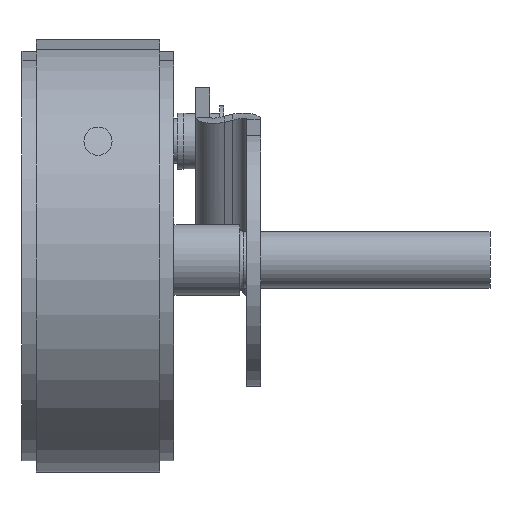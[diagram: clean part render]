
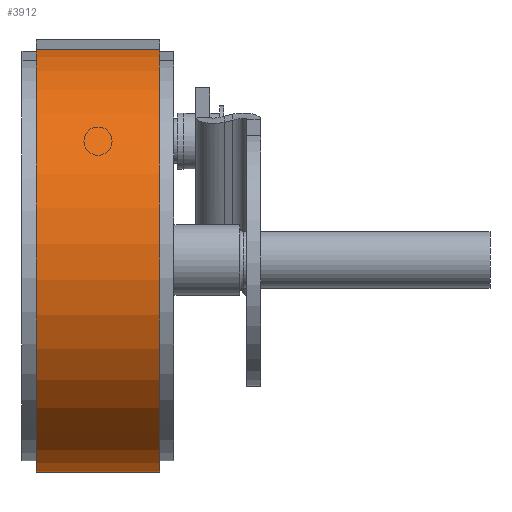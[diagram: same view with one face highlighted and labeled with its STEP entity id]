
A CAD part, left-side view. The second image highlights one B-rep face of the part: STEP entity #3912.
In plain terms, the highlighted cylindrical face has radius 75.5 mm (diameter 151 mm), a partial arc.
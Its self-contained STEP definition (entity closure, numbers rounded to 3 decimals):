
#426=FACE_OUTER_BOUND('',#679,.T.);
#679=EDGE_LOOP('',(#3369,#3370,#3371,#3372));
#1008=LINE('',#6858,#1350);
#1014=LINE('',#6870,#1356);
#1350=VECTOR('',#5319,10.);
#1356=VECTOR('',#5329,10.);
#1526=CIRCLE('',#4291,75.5);
#1527=CIRCLE('',#4292,75.5);
#1855=VERTEX_POINT('',#6856);
#1856=VERTEX_POINT('',#6857);
#1859=VERTEX_POINT('',#6868);
#1860=VERTEX_POINT('',#6869);
#2365=EDGE_CURVE('',#1855,#1856,#1008,.T.);
#2371=EDGE_CURVE('',#1859,#1860,#1014,.T.);
#2372=EDGE_CURVE('',#1860,#1856,#1526,.T.);
#2373=EDGE_CURVE('',#1859,#1855,#1527,.T.);
#3369=ORIENTED_EDGE('',*,*,#2371,.T.);
#3370=ORIENTED_EDGE('',*,*,#2372,.T.);
#3371=ORIENTED_EDGE('',*,*,#2365,.F.);
#3372=ORIENTED_EDGE('',*,*,#2373,.F.);
#3501=CYLINDRICAL_SURFACE('',#4290,75.5);
#3912=ADVANCED_FACE('',(#426),#3501,.T.);
#4290=AXIS2_PLACEMENT_3D('',#6867,#5327,#5328);
#4291=AXIS2_PLACEMENT_3D('',#6871,#5330,#5331);
#4292=AXIS2_PLACEMENT_3D('',#6872,#5332,#5333);
#5319=DIRECTION('',(0.,1.,0.));
#5327=DIRECTION('center_axis',(0.,-1.,0.));
#5328=DIRECTION('ref_axis',(-0.966,0.,-0.259));
#5329=DIRECTION('',(0.,1.,0.));
#5330=DIRECTION('center_axis',(0.,-1.,0.));
#5331=DIRECTION('ref_axis',(-0.139,0.,0.99));
#5332=DIRECTION('center_axis',(0.,-1.,0.));
#5333=DIRECTION('ref_axis',(-0.139,0.,0.99));
#6856=CARTESIAN_POINT('',(-219.717,-22.,-112.202));
#6857=CARTESIAN_POINT('',(-219.717,22.,-112.202));
#6858=CARTESIAN_POINT('',(-219.717,22.,-112.202));
#6867=CARTESIAN_POINT('Origin',(-248.,0.,-42.2));
#6868=CARTESIAN_POINT('',(-258.508,-22.,32.565));
#6869=CARTESIAN_POINT('',(-258.508,22.,32.565));
#6870=CARTESIAN_POINT('',(-258.508,22.,32.565));
#6871=CARTESIAN_POINT('Origin',(-248.,22.,-42.2));
#6872=CARTESIAN_POINT('Origin',(-248.,-22.,-42.2));
